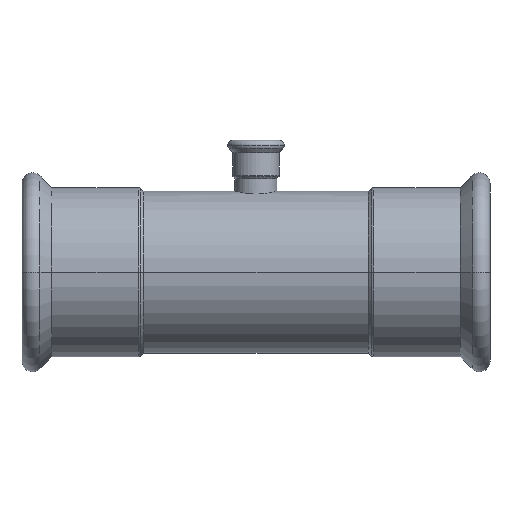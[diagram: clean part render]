
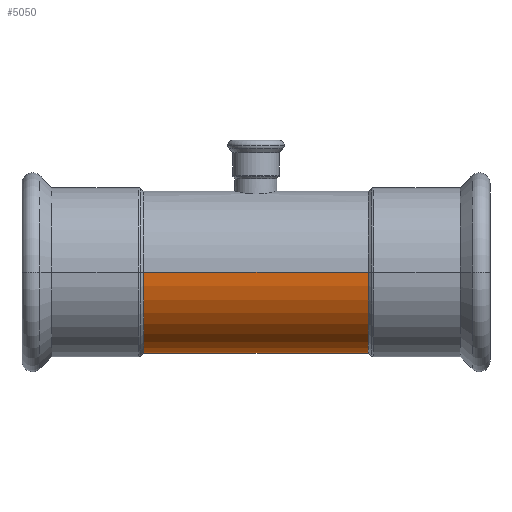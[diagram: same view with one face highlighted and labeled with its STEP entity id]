
A CAD part, front view. The second image highlights one B-rep face of the part: STEP entity #5050.
In plain terms, the highlighted cylindrical face has radius 54 mm (diameter 108 mm), a partial arc.
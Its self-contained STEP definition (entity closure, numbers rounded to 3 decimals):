
#1170=CARTESIAN_POINT('',(-329.306,-20.327,0.));
#1180=DIRECTION('',(1.,0.,0.));
#1190=DIRECTION('',(0.,0.,-1.));
#1200=AXIS2_PLACEMENT_3D('',#1170,#1180,#1190);
#1210=CYLINDRICAL_SURFACE('',#1200,54.);
#4690=CARTESIAN_POINT('',(-329.306,-20.327,54.));
#4700=DIRECTION('',(1.,0.,0.));
#4710=VECTOR('',#4700,1.);
#4720=LINE('',#4690,#4710);
#4730=CARTESIAN_POINT('',(-479.306,-20.327,54.));
#4740=VERTEX_POINT('',#4730);
#4750=CARTESIAN_POINT('',(-329.306,-20.327,54.));
#4760=VERTEX_POINT('',#4750);
#4770=EDGE_CURVE('',#4740,#4760,#4720,.T.);
#4780=ORIENTED_EDGE('',*,*,#4770,.F.);
#4790=CARTESIAN_POINT('',(-329.306,-20.327,0.));
#4800=DIRECTION('',(1.,0.,0.));
#4810=DIRECTION('',(0.,0.,1.));
#4820=AXIS2_PLACEMENT_3D('',#4790,#4800,#4810);
#4830=CIRCLE('',#4820,54.);
#4840=CARTESIAN_POINT('',(-329.306,-20.327,-54.));
#4850=VERTEX_POINT('',#4840);
#4860=EDGE_CURVE('',#4760,#4850,#4830,.T.);
#4870=ORIENTED_EDGE('',*,*,#4860,.F.);
#4880=CARTESIAN_POINT('',(-329.306,-20.327,-54.));
#4890=DIRECTION('',(1.,0.,0.));
#4900=VECTOR('',#4890,1.);
#4910=LINE('',#4880,#4900);
#4920=CARTESIAN_POINT('',(-479.306,-20.327,-54.));
#4930=VERTEX_POINT('',#4920);
#4940=EDGE_CURVE('',#4930,#4850,#4910,.T.);
#4950=ORIENTED_EDGE('',*,*,#4940,.T.);
#4960=CARTESIAN_POINT('',(-479.306,-20.327,0.));
#4970=DIRECTION('',(1.,0.,0.));
#4980=DIRECTION('',(0.,0.,-1.));
#4990=AXIS2_PLACEMENT_3D('',#4960,#4970,#4980);
#5000=CIRCLE('',#4990,54.);
#5010=EDGE_CURVE('',#4740,#4930,#5000,.T.);
#5020=ORIENTED_EDGE('',*,*,#5010,.T.);
#5030=EDGE_LOOP('',(#5020,#4950,#4870,#4780));
#5040=FACE_OUTER_BOUND('',#5030,.T.);
#5050=ADVANCED_FACE('',(#5040),#1210,.T.);
